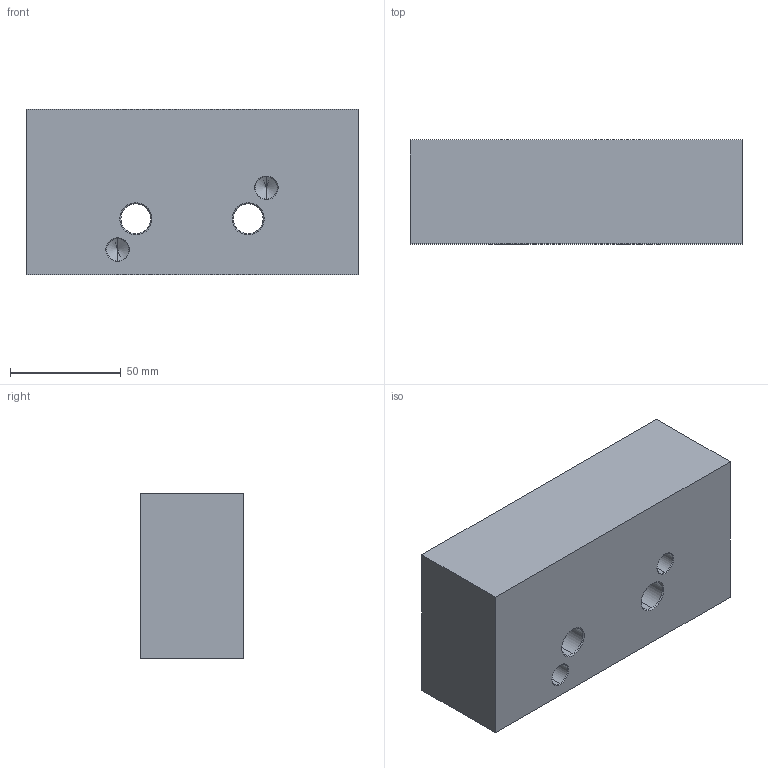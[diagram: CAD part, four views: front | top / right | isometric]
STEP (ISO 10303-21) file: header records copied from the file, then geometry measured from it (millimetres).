
FILE_DESCRIPTION (( 'STEP AP214' ), '1' );
FILE_NAME ('D_VAJ610M.STEP', '2020-07-28T17:07:00', ( '' ), ( '' ), 'SwSTEP 2.0', 'SolidWorks 2018', '' );
FILE_SCHEMA (( 'AUTOMOTIVE_DESIGN' ));
Length unit declared in the file: inch
Products named in the file (1): D_VAJ610M
Bounding box: 150.01 x 46.99 x 75 mm (x, y, z)
Volume: 501699.7 mm3; surface area: 49041.5 mm2
Topology: 1 solids, 1 shells, 40 faces, 88 edges, 50 vertices
Faces by surface type: cone 20, cylinder 12, plane 8
Entity records: 1112 total; most frequent: DIRECTION 206, CARTESIAN_POINT 175, ORIENTED_EDGE 168, EDGE_CURVE 84, AXIS2_PLACEMENT_3D 81, VERTEX_POINT 50, EDGE_LOOP 48, LINE 44
